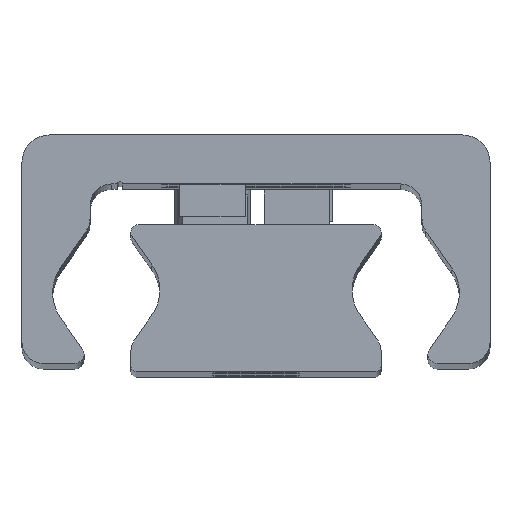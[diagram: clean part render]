
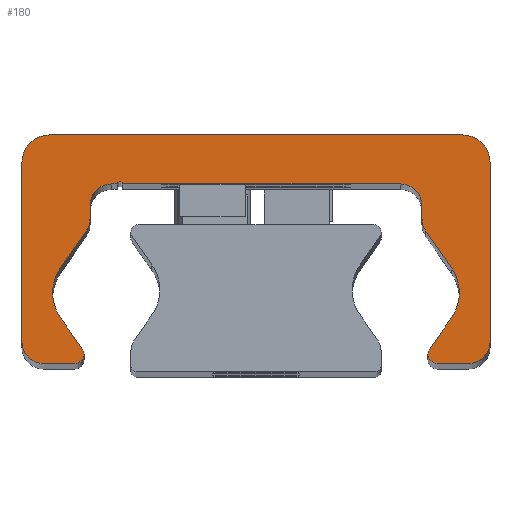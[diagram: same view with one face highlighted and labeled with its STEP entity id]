
A CAD part, top view. The second image highlights one B-rep face of the part: STEP entity #180.
In plain terms, the highlighted planar face has unit normal (0, 0, 1).
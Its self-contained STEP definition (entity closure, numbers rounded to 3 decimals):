
#180=ADVANCED_FACE('',(#434),#435,.T.);
#434=FACE_OUTER_BOUND('',#689,.T.);
#435=PLANE('',#690);
#689=EDGE_LOOP('',(#1578,#1579,#1580,#1581,#1582,#1583,#1584,#1585,#1586,#1587,#1588,#1589,#1590,#1591,#1592,#1593,#1594,#1595,#1596,#1597,#1598,#1599,#1600,#1601,#1602,#1603,#1604,#1605,#1606,#1607));
#690=AXIS2_PLACEMENT_3D('',#1608,#1609,#1610);
#1578=ORIENTED_EDGE('',*,*,#1799,.F.);
#1579=ORIENTED_EDGE('',*,*,#1942,.F.);
#1580=ORIENTED_EDGE('',*,*,#1785,.F.);
#1581=ORIENTED_EDGE('',*,*,#1941,.F.);
#1582=ORIENTED_EDGE('',*,*,#1937,.F.);
#1583=ORIENTED_EDGE('',*,*,#1934,.F.);
#1584=ORIENTED_EDGE('',*,*,#1931,.F.);
#1585=ORIENTED_EDGE('',*,*,#1928,.F.);
#1586=ORIENTED_EDGE('',*,*,#1925,.F.);
#1587=ORIENTED_EDGE('',*,*,#1922,.F.);
#1588=ORIENTED_EDGE('',*,*,#1919,.F.);
#1589=ORIENTED_EDGE('',*,*,#1916,.F.);
#1590=ORIENTED_EDGE('',*,*,#1913,.F.);
#1591=ORIENTED_EDGE('',*,*,#1910,.F.);
#1592=ORIENTED_EDGE('',*,*,#1791,.F.);
#1593=ORIENTED_EDGE('',*,*,#1908,.F.);
#1594=ORIENTED_EDGE('',*,*,#1793,.F.);
#1595=ORIENTED_EDGE('',*,*,#1907,.F.);
#1596=ORIENTED_EDGE('',*,*,#1903,.F.);
#1597=ORIENTED_EDGE('',*,*,#1900,.F.);
#1598=ORIENTED_EDGE('',*,*,#1897,.F.);
#1599=ORIENTED_EDGE('',*,*,#1894,.F.);
#1600=ORIENTED_EDGE('',*,*,#1891,.F.);
#1601=ORIENTED_EDGE('',*,*,#1888,.F.);
#1602=ORIENTED_EDGE('',*,*,#1885,.F.);
#1603=ORIENTED_EDGE('',*,*,#1882,.F.);
#1604=ORIENTED_EDGE('',*,*,#1879,.F.);
#1605=ORIENTED_EDGE('',*,*,#1876,.F.);
#1606=ORIENTED_EDGE('',*,*,#1873,.F.);
#1607=ORIENTED_EDGE('',*,*,#1870,.F.);
#1608=CARTESIAN_POINT('',(-0.023,14.187,132.0));
#1609=DIRECTION('',(0.0,0.0,1.0));
#1610=DIRECTION('',(1.0,0.0,0.0));
#1785=EDGE_CURVE('',#2172,#2175,#2176,.T.);
#1791=EDGE_CURVE('',#2185,#2181,#2187,.T.);
#1793=EDGE_CURVE('',#2188,#2191,#2192,.T.);
#1799=EDGE_CURVE('',#2201,#2197,#2203,.T.);
#1870=EDGE_CURVE('',#2197,#2318,#2319,.T.);
#1873=EDGE_CURVE('',#2318,#2323,#2324,.T.);
#1876=EDGE_CURVE('',#2323,#2328,#2329,.T.);
#1879=EDGE_CURVE('',#2328,#2333,#2334,.T.);
#1882=EDGE_CURVE('',#2333,#2338,#2339,.T.);
#1885=EDGE_CURVE('',#2338,#2343,#2344,.T.);
#1888=EDGE_CURVE('',#2343,#2348,#2349,.T.);
#1891=EDGE_CURVE('',#2348,#2353,#2354,.T.);
#1894=EDGE_CURVE('',#2353,#2358,#2359,.T.);
#1897=EDGE_CURVE('',#2358,#2363,#2364,.T.);
#1900=EDGE_CURVE('',#2363,#2368,#2369,.T.);
#1903=EDGE_CURVE('',#2368,#2373,#2374,.T.);
#1907=EDGE_CURVE('',#2373,#2188,#2379,.T.);
#1908=EDGE_CURVE('',#2191,#2185,#2380,.T.);
#1910=EDGE_CURVE('',#2181,#2382,#2383,.T.);
#1913=EDGE_CURVE('',#2382,#2387,#2388,.T.);
#1916=EDGE_CURVE('',#2387,#2392,#2393,.T.);
#1919=EDGE_CURVE('',#2392,#2397,#2398,.T.);
#1922=EDGE_CURVE('',#2397,#2402,#2403,.T.);
#1925=EDGE_CURVE('',#2402,#2407,#2408,.T.);
#1928=EDGE_CURVE('',#2407,#2412,#2413,.T.);
#1931=EDGE_CURVE('',#2412,#2417,#2418,.T.);
#1934=EDGE_CURVE('',#2417,#2422,#2423,.T.);
#1937=EDGE_CURVE('',#2422,#2427,#2428,.T.);
#1941=EDGE_CURVE('',#2427,#2172,#2433,.T.);
#1942=EDGE_CURVE('',#2175,#2201,#2434,.T.);
#2172=VERTEX_POINT('',#2748);
#2175=VERTEX_POINT('',#2752);
#2176=CIRCLE('',#2753,0.85);
#2181=VERTEX_POINT('',#2759);
#2185=VERTEX_POINT('',#2764);
#2187=CIRCLE('',#2767,0.85);
#2188=VERTEX_POINT('',#2768);
#2191=VERTEX_POINT('',#2772);
#2192=CIRCLE('',#2773,4.);
#2197=VERTEX_POINT('',#2779);
#2201=VERTEX_POINT('',#2784);
#2203=CIRCLE('',#2787,4.);
#2318=VERTEX_POINT('',#2944);
#2319=CIRCLE('',#2945,4.);
#2323=VERTEX_POINT('',#2950);
#2324=LINE('',#2951,#2952);
#2328=VERTEX_POINT('',#2958);
#2329=CIRCLE('',#2959,2.);
#2333=VERTEX_POINT('',#2964);
#2334=LINE('',#2965,#2966);
#2338=VERTEX_POINT('',#2972);
#2339=CIRCLE('',#2973,2.0);
#2343=VERTEX_POINT('',#2978);
#2344=LINE('',#2979,#2980);
#2348=VERTEX_POINT('',#2986);
#2349=CIRCLE('',#2987,0.25);
#2353=VERTEX_POINT('',#2992);
#2354=LINE('',#2993,#2994);
#2358=VERTEX_POINT('',#3000);
#2359=CIRCLE('',#3001,2.0);
#2363=VERTEX_POINT('',#3006);
#2364=LINE('',#3007,#3008);
#2368=VERTEX_POINT('',#3014);
#2369=CIRCLE('',#3015,2.0);
#2373=VERTEX_POINT('',#3020);
#2374=LINE('',#3021,#3022);
#2379=CIRCLE('',#3029,4.);
#2380=LINE('',#3030,#3031);
#2382=VERTEX_POINT('',#3034);
#2383=CIRCLE('',#3035,0.85);
#2387=VERTEX_POINT('',#3040);
#2388=LINE('',#3041,#3042);
#2392=VERTEX_POINT('',#3048);
#2393=CIRCLE('',#3049,2.);
#2397=VERTEX_POINT('',#3054);
#2398=LINE('',#3055,#3056);
#2402=VERTEX_POINT('',#3062);
#2403=CIRCLE('',#3063,2.5);
#2407=VERTEX_POINT('',#3068);
#2408=LINE('',#3069,#3070);
#2412=VERTEX_POINT('',#3076);
#2413=CIRCLE('',#3077,2.5);
#2417=VERTEX_POINT('',#3082);
#2418=LINE('',#3083,#3084);
#2422=VERTEX_POINT('',#3090);
#2423=CIRCLE('',#3091,2.);
#2427=VERTEX_POINT('',#3096);
#2428=LINE('',#3097,#3098);
#2433=CIRCLE('',#3105,0.85);
#2434=LINE('',#3106,#3107);
#2748=CARTESIAN_POINT('',(15.8,1.859,132.0));
#2752=CARTESIAN_POINT('',(15.922,2.298,132.0));
#2753=AXIS2_PLACEMENT_3D('',#3363,#3364,#3365);
#2759=CARTESIAN_POINT('',(-15.8,1.859,132.0));
#2764=CARTESIAN_POINT('',(-15.922,2.298,132.0));
#2767=AXIS2_PLACEMENT_3D('',#3375,#3376,#3377);
#2768=CARTESIAN_POINT('',(-18.688,7.509,132.0));
#2772=CARTESIAN_POINT('',(-17.964,5.214,132.0));
#2773=AXIS2_PLACEMENT_3D('',#3379,#3380,#3381);
#2779=CARTESIAN_POINT('',(18.688,7.509,132.0));
#2784=CARTESIAN_POINT('',(17.964,5.214,132.0));
#2787=AXIS2_PLACEMENT_3D('',#3391,#3392,#3393);
#2944=CARTESIAN_POINT('',(17.964,9.803,132.0));
#2945=AXIS2_PLACEMENT_3D('',#3520,#3521,#3522);
#2950=CARTESIAN_POINT('',(15.612,13.163,132.0));
#2951=CARTESIAN_POINT('',(15.612,13.163,132.0));
#2952=VECTOR('',#3527,1.0);
#2958=CARTESIAN_POINT('',(15.25,14.31,132.0));
#2959=AXIS2_PLACEMENT_3D('',#3530,#3531,#3532);
#2964=CARTESIAN_POINT('',(15.25,15.509,132.0));
#2965=CARTESIAN_POINT('',(15.25,15.509,132.0));
#2966=VECTOR('',#3537,1.0);
#2972=CARTESIAN_POINT('',(13.25,17.509,132.0));
#2973=AXIS2_PLACEMENT_3D('',#3540,#3541,#3542);
#2978=CARTESIAN_POINT('',(-12.25,17.509,132.0));
#2979=CARTESIAN_POINT('',(-12.25,17.509,132.0));
#2980=VECTOR('',#3547,1.0);
#2986=CARTESIAN_POINT('',(-12.75,17.509,132.0));
#2987=AXIS2_PLACEMENT_3D('',#3550,#3551,#3552);
#2992=CARTESIAN_POINT('',(-13.25,17.509,132.0));
#2993=CARTESIAN_POINT('',(-13.25,17.509,132.0));
#2994=VECTOR('',#3557,1.0);
#3000=CARTESIAN_POINT('',(-15.25,15.509,132.0));
#3001=AXIS2_PLACEMENT_3D('',#3560,#3561,#3562);
#3006=CARTESIAN_POINT('',(-15.25,14.31,132.0));
#3007=CARTESIAN_POINT('',(-15.25,14.31,132.0));
#3008=VECTOR('',#3567,1.0);
#3014=CARTESIAN_POINT('',(-15.612,13.163,132.0));
#3015=AXIS2_PLACEMENT_3D('',#3570,#3571,#3572);
#3020=CARTESIAN_POINT('',(-17.964,9.803,132.0));
#3021=CARTESIAN_POINT('',(-17.964,9.803,132.0));
#3022=VECTOR('',#3577,1.);
#3029=AXIS2_PLACEMENT_3D('',#3583,#3584,#3585);
#3030=CARTESIAN_POINT('',(-15.922,2.298,132.0));
#3031=VECTOR('',#3586,1.0);
#3034=CARTESIAN_POINT('',(-16.65,1.009,132.0));
#3035=AXIS2_PLACEMENT_3D('',#3588,#3589,#3590);
#3040=CARTESIAN_POINT('',(-19.5,1.009,132.0));
#3041=CARTESIAN_POINT('',(-19.5,1.009,132.0));
#3042=VECTOR('',#3595,1.0);
#3048=CARTESIAN_POINT('',(-21.5,3.009,132.0));
#3049=AXIS2_PLACEMENT_3D('',#3598,#3599,#3600);
#3054=CARTESIAN_POINT('',(-21.5,19.509,132.0));
#3055=CARTESIAN_POINT('',(-21.5,19.509,132.0));
#3056=VECTOR('',#3605,1.0);
#3062=CARTESIAN_POINT('',(-19.0,22.009,132.0));
#3063=AXIS2_PLACEMENT_3D('',#3608,#3609,#3610);
#3068=CARTESIAN_POINT('',(19.0,22.009,132.0));
#3069=CARTESIAN_POINT('',(19.0,22.009,132.0));
#3070=VECTOR('',#3615,1.0);
#3076=CARTESIAN_POINT('',(21.5,19.509,132.0));
#3077=AXIS2_PLACEMENT_3D('',#3618,#3619,#3620);
#3082=CARTESIAN_POINT('',(21.5,3.009,132.0));
#3083=CARTESIAN_POINT('',(21.5,3.009,132.0));
#3084=VECTOR('',#3625,1.0);
#3090=CARTESIAN_POINT('',(19.5,1.009,132.0));
#3091=AXIS2_PLACEMENT_3D('',#3628,#3629,#3630);
#3096=CARTESIAN_POINT('',(16.65,1.009,132.0));
#3097=CARTESIAN_POINT('',(16.65,1.009,132.0));
#3098=VECTOR('',#3635,1.0);
#3105=AXIS2_PLACEMENT_3D('',#3641,#3642,#3643);
#3106=CARTESIAN_POINT('',(17.964,5.214,132.0));
#3107=VECTOR('',#3644,1.0);
#3363=CARTESIAN_POINT('',(16.65,1.859,132.0));
#3364=DIRECTION('',(0.0,0.0,-1.0));
#3365=DIRECTION('',(1.0,0.0,0.0));
#3375=CARTESIAN_POINT('',(-16.65,1.859,132.0));
#3376=DIRECTION('',(0.0,0.0,-1.0));
#3377=DIRECTION('',(1.0,0.0,0.0));
#3379=CARTESIAN_POINT('',(-14.688,7.509,132.0));
#3380=DIRECTION('',(0.0,0.0,1.0));
#3381=DIRECTION('',(1.0,0.0,0.0));
#3391=CARTESIAN_POINT('',(14.688,7.509,132.0));
#3392=DIRECTION('',(0.0,0.0,1.0));
#3393=DIRECTION('',(1.0,0.0,0.0));
#3520=CARTESIAN_POINT('',(14.688,7.509,132.0));
#3521=DIRECTION('',(0.0,0.0,1.0));
#3522=DIRECTION('',(1.0,0.0,0.0));
#3527=DIRECTION('',(-0.574,0.819,0.0));
#3530=CARTESIAN_POINT('',(17.25,14.31,132.0));
#3531=DIRECTION('',(0.0,0.0,-1.0));
#3532=DIRECTION('',(1.0,0.0,0.0));
#3537=DIRECTION('',(0.0,1.0,0.0));
#3540=CARTESIAN_POINT('',(13.25,15.509,132.0));
#3541=DIRECTION('',(0.0,0.0,1.0));
#3542=DIRECTION('',(1.0,0.0,0.0));
#3547=DIRECTION('',(-1.0,-0.0,-0.0));
#3550=CARTESIAN_POINT('',(-12.5,17.509,132.0));
#3551=DIRECTION('',(0.0,0.0,1.0));
#3552=DIRECTION('',(1.0,0.0,0.0));
#3557=DIRECTION('',(-1.0,-0.0,-0.0));
#3560=CARTESIAN_POINT('',(-13.25,15.509,132.0));
#3561=DIRECTION('',(0.0,0.0,1.0));
#3562=DIRECTION('',(1.0,0.0,0.0));
#3567=DIRECTION('',(-0.0,-1.0,-0.0));
#3570=CARTESIAN_POINT('',(-17.25,14.31,132.0));
#3571=DIRECTION('',(0.0,0.0,-1.0));
#3572=DIRECTION('',(1.0,0.0,0.0));
#3577=DIRECTION('',(-0.574,-0.819,-0.0));
#3583=CARTESIAN_POINT('',(-14.688,7.509,132.0));
#3584=DIRECTION('',(0.0,0.0,1.0));
#3585=DIRECTION('',(1.0,0.0,0.0));
#3586=DIRECTION('',(0.574,-0.819,0.0));
#3588=CARTESIAN_POINT('',(-16.65,1.859,132.0));
#3589=DIRECTION('',(0.0,0.0,-1.0));
#3590=DIRECTION('',(1.0,0.0,0.0));
#3595=DIRECTION('',(-1.0,-0.0,-0.0));
#3598=CARTESIAN_POINT('',(-19.5,3.009,132.0));
#3599=DIRECTION('',(0.0,0.0,-1.0));
#3600=DIRECTION('',(1.0,0.0,0.0));
#3605=DIRECTION('',(0.0,1.0,0.0));
#3608=CARTESIAN_POINT('',(-19.0,19.509,132.0));
#3609=DIRECTION('',(0.0,0.0,-1.0));
#3610=DIRECTION('',(1.0,0.0,0.0));
#3615=DIRECTION('',(1.0,0.0,0.0));
#3618=CARTESIAN_POINT('',(19.0,19.509,132.0));
#3619=DIRECTION('',(0.0,0.0,-1.0));
#3620=DIRECTION('',(1.0,0.0,0.0));
#3625=DIRECTION('',(-0.0,-1.0,-0.0));
#3628=CARTESIAN_POINT('',(19.5,3.009,132.0));
#3629=DIRECTION('',(0.0,0.0,-1.0));
#3630=DIRECTION('',(1.0,0.0,0.0));
#3635=DIRECTION('',(-1.0,-0.0,-0.0));
#3641=CARTESIAN_POINT('',(16.65,1.859,132.0));
#3642=DIRECTION('',(0.0,0.0,-1.0));
#3643=DIRECTION('',(1.0,0.0,0.0));
#3644=DIRECTION('',(0.574,0.819,0.0));
